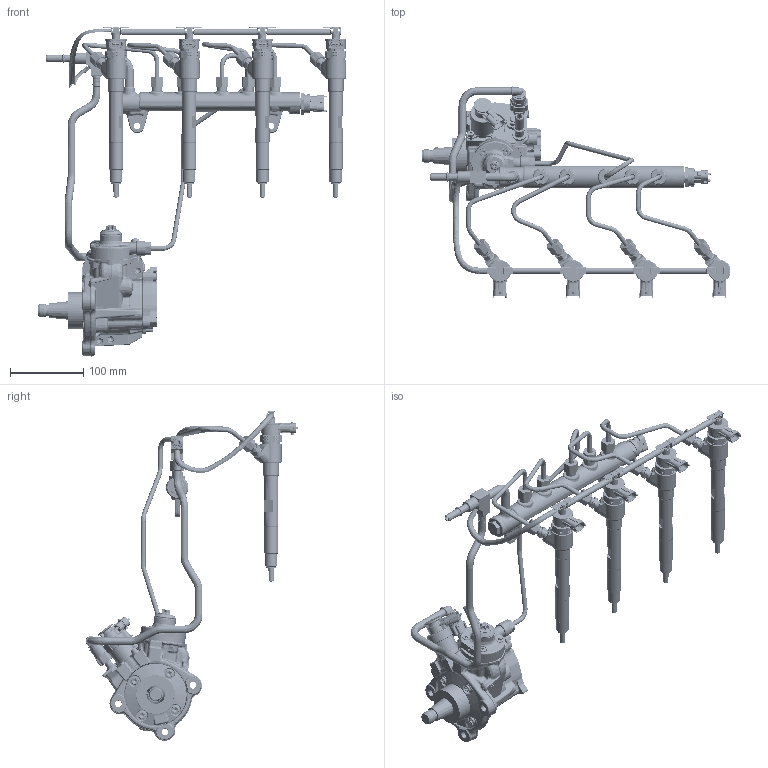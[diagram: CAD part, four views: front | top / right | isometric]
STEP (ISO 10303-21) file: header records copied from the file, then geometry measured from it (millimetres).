
FILE_DESCRIPTION (( 'STEP AP214' ), '1' );
FILE_NAME ('DM02-MFG00-MFP00_fuel_components.STEP', '2026-02-03T10:46:29', ( '' ), ( '' ), 'SwSTEP 2.0', 'SolidWorks 2022', '' );
FILE_SCHEMA (( 'AUTOMOTIVE_DESIGN' ));
Length unit declared in the file: millimetre
Products named in the file (1): DM02-MFG00-MFP00_fuel_components
Bounding box: 421.51 x 290.3 x 450.16 mm (x, y, z)
Surface area: 321353.9 mm2 (no closed solid volume)
Topology: 0 solids, 33 shells, 13467 faces, 35624 edges, 21929 vertices
Faces by surface type: bspline 4550, plane 3942, cylinder 3855, cone 1096, torus 19, sphere 5
Entity records: 633358 total; most frequent: CARTESIAN_POINT 351874, ORIENTED_EDGE 70050, DIRECTION 42801, EDGE_CURVE 35030, VERTEX_POINT 21928, AXIS2_PLACEMENT_3D 15490, B_SPLINE_CURVE_WITH_KNOTS 14873, EDGE_LOOP 13839
